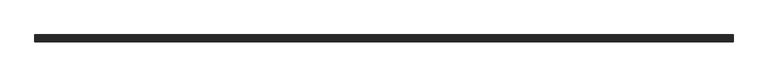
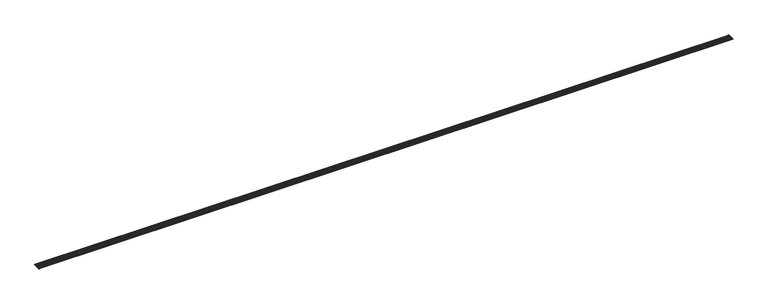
"""IFC4 building model written with IfcOpenShell, lengths in millimetres: slab geometry, ROSA GRES_003 : Pieza 003_Aqua_Marino_Anti-Slip."""

from ifc_helpers import new_model, si_unit, point, frame, frame_2d, origin, place, context, project, spatial, polyline, circle_curve, trimmed, segment, composite_curve, outline, extrude, source, transform, mapped, element, save


def slab_adf7b20b(model_context):
    return source(origin(), model_context, "Body", "SweptSolid", [
        extrude(outline(composite_curve([segment(polyline([(7.6419163, 9.4971975), (13.1748183, 9.4971975), (13.1748183, 4.0921512), (114.6668888, 4.0921512), (114.6668888, 10.0184612)]), True, "CONTINUOUS"), segment(trimmed(circle_curve(frame_2d((118.9168888, 13.6516438)), 5.5912893), [point((114.6668888, 10.0184612))], [point((118.9168888, 8.0603545))], True, "CARTESIAN"), True, "CONTINUOUS"), segment(polyline([(118.9168888, 8.0603545), (118.9168888, 0.0), (1.8518481, 0.0), (0.5422562, 1.309592)]), True, "CONTINUOUS"), segment(trimmed(circle_curve(frame_2d((1.9104791, 2.6778148)), 1.9349594), [point((0.5422562, 1.309592))], [point((0.0, 2.9846331))], False, "CARTESIAN"), True, "CONTINUOUS"), segment(trimmed(circle_curve(frame_2d((7.6419163, 1.7573601)), 7.7398374), [point((0.0, 2.9846331))], [point((7.6419163, 9.4971975))], False, "CARTESIAN"), True, "CONTINUOUS")], self_intersect=False)), frame((0.0, 0.0, 0.0), z_axis=(1.0, 0.0, 0.0), x_axis=(0.0, 1.0, 0.0)), (0.0, 0.0, 1.0), 11949.8827382),
        extrude(outline(composite_curve([segment(trimmed(circle_curve(frame_2d((110.4168888, 13.6516438)), 5.5912893), [point((106.1668888, 10.0184612))], [point((114.6668888, 10.0184612))], True, "CARTESIAN"), True, "CONTINUOUS"), segment(polyline([(114.6668888, 10.0184612), (114.6668888, 4.0921512), (106.1668888, 4.0921512), (106.1668888, 10.0184612)]), True, "CONTINUOUS")], self_intersect=False)), frame((0.0, 0.0, 0.0), z_axis=(1.0, 0.0, 0.0), x_axis=(0.0, 1.0, 0.0)), (0.0, 0.0, 1.0), 11949.8827382),
        extrude(outline(polyline([(8.5, 0.0), (-8.5, 0.0), (-8.5, 11949.8827382), (8.5, 11949.8827382), (8.5, 0.0)])), frame((11949.8827382, 80.6668888, 4.0921512), z_axis=(0.0, 7.109487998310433e-12, 1.0), x_axis=(0.0, 1.0, -7.109487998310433e-12)), (0.0, 0.0, 1.0), 2.92631),
        extrude(outline(polyline([(8.5, 0.0), (-8.5, 0.0), (-8.5, 11949.8827382), (8.5, 11949.8827382), (8.5, 0.0)])), frame((11949.8827382, 46.6668888, 4.0921512), z_axis=(0.0, 7.109456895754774e-12, 1.0), x_axis=(0.0, 1.0, -7.109456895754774e-12)), (0.0, 0.0, 1.0), 2.92631),
        extrude(outline(composite_curve([segment(trimmed(circle_curve(frame_2d((16.9168888, 13.6516438)), 5.5912893), [point((13.1748183, 9.4971975))], [point((21.1668888, 10.0184612))], True, "CARTESIAN"), True, "CONTINUOUS"), segment(polyline([(21.1668888, 10.0184612), (21.1668888, 4.0921512), (13.1748183, 4.0921512), (13.1748183, 9.4971975)]), True, "CONTINUOUS")], self_intersect=False)), frame((0.0, 0.0, 0.0), z_axis=(1.0, 0.0, 0.0), x_axis=(0.0, 1.0, 0.0)), (0.0, 0.0, 1.0), 11949.8827382),
        extrude(outline(composite_curve([segment(trimmed(circle_curve(frame_2d((25.4168888, 13.6553338)), 5.5912893), [point((21.1668888, 10.0221512))], [point((29.6668888, 10.0221512))], True, "CARTESIAN"), True, "CONTINUOUS"), segment(trimmed(circle_curve(frame_2d((33.9168888, 13.6553338)), 5.5912893), [point((29.6668888, 10.0221512))], [point((38.1668888, 10.0221512))], True, "CARTESIAN"), True, "CONTINUOUS"), segment(trimmed(circle_curve(frame_2d((42.4168888, 13.6553338)), 5.5912893), [point((38.1668888, 10.0221512))], [point((46.6668888, 10.0221512))], True, "CARTESIAN"), True, "CONTINUOUS"), segment(trimmed(circle_curve(frame_2d((50.9168888, 13.6553338)), 5.5912893), [point((46.6668888, 10.0221512))], [point((55.1668888, 10.0221512))], True, "CARTESIAN"), True, "CONTINUOUS"), segment(trimmed(circle_curve(frame_2d((59.4168888, 13.6553338)), 5.5912893), [point((55.1668888, 10.0221512))], [point((63.6668888, 10.0221512))], True, "CARTESIAN"), True, "CONTINUOUS"), segment(trimmed(circle_curve(frame_2d((67.9168888, 13.6553338)), 5.5912893), [point((63.6668888, 10.0221512))], [point((72.1668888, 10.0221512))], True, "CARTESIAN"), True, "CONTINUOUS"), segment(trimmed(circle_curve(frame_2d((76.4168888, 13.6553338)), 5.5912893), [point((72.1668888, 10.0221512))], [point((80.6668888, 10.0221512))], True, "CARTESIAN"), True, "CONTINUOUS"), segment(trimmed(circle_curve(frame_2d((84.9168888, 13.6553338)), 5.5912893), [point((80.6668888, 10.0221512))], [point((89.1668888, 10.0221512))], True, "CARTESIAN"), True, "CONTINUOUS"), segment(trimmed(circle_curve(frame_2d((93.4168888, 13.6553338)), 5.5912893), [point((89.1668888, 10.0221512))], [point((97.6668888, 10.0221512))], True, "CARTESIAN"), True, "CONTINUOUS"), segment(trimmed(circle_curve(frame_2d((101.9168888, 13.6553338)), 5.5912893), [point((97.6668888, 10.0221512))], [point((106.1668888, 10.0221512))], True, "CARTESIAN"), True, "CONTINUOUS"), segment(polyline([(106.1668888, 10.0221512), (106.1668888, 4.0921512), (89.1668888, 4.0921512), (89.1668888, 7.0184612), (72.1668888, 7.0184612), (72.1668888, 4.0921512), (55.1668888, 4.0921512), (55.1668888, 7.0184612), (38.1668888, 7.0184612), (38.1668888, 4.0921512), (21.1668888, 4.0921512), (21.1668888, 10.0221512)]), True, "CONTINUOUS")], self_intersect=False)), frame((0.0, 0.0, 0.0), z_axis=(1.0, 0.0, 0.0), x_axis=(0.0, 1.0, 0.0)), (0.0, 0.0, 1.0), 11949.8827382),
    ])


if __name__ == "__main__":
    model = new_model("IFC4")
    model_context = context("Model", 3, world=origin())
    ifc_project = project(units=[si_unit("LENGTHUNIT", "METRE", prefix="MILLI")], contexts=[model_context])
    site = spatial("IfcSite", under=ifc_project)
    building = spatial("IfcBuilding", under=site)
    placement = place(None, origin())
    slab_shape = slab_adf7b20b(model_context)
    element("IfcSlab", 1, ObjectType="ROSA GRES_003 : Pieza 003_Aqua_Marino_Anti-Slip", at=placement, inside=building, context=model_context, shape_type="MappedRepresentation", body=[
        mapped(slab_shape, transform((0.0, 0.0, 0.0), x_axis=(1.0, 0.0, 0.0), y_axis=(0.0, 1.0, 0.0), z_axis=(0.0, 0.0, 1.0))),
    ])
    save(model, "model.ifc")
